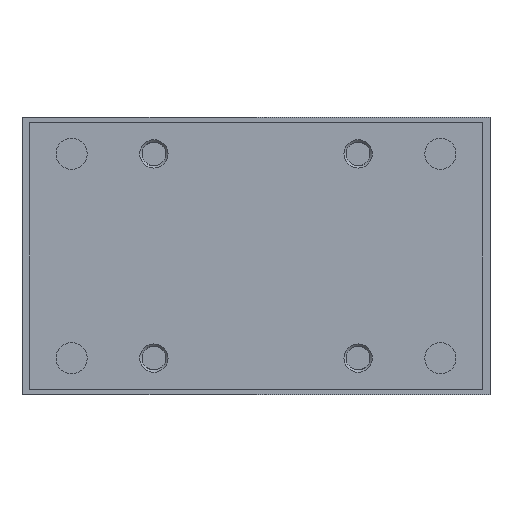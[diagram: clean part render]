
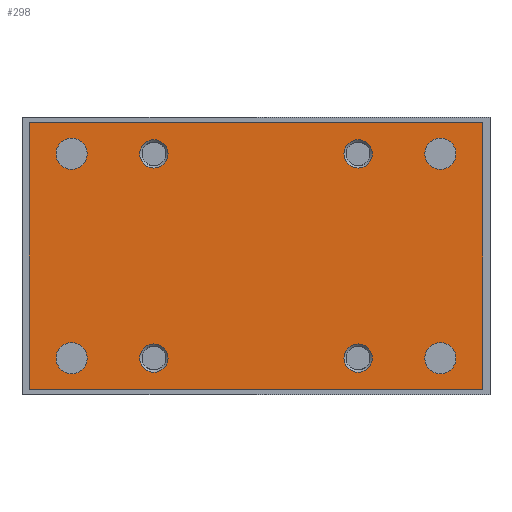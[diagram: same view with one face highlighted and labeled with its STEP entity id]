
A CAD part, left-side view. The second image highlights one B-rep face of the part: STEP entity #298.
In plain terms, the highlighted planar face has unit normal (-1, 0, 0).
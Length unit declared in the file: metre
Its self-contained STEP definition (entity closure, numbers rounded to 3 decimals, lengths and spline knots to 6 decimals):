
#298 = ADVANCED_FACE( '', ( #833, #834, #835, #836, #837, #838, #839, #840, #841 ), #842, .F. );
#833 = FACE_BOUND( '', #1791, .T. );
#834 = FACE_BOUND( '', #1792, .T. );
#835 = FACE_BOUND( '', #1793, .T. );
#836 = FACE_BOUND( '', #1794, .T. );
#837 = FACE_BOUND( '', #1795, .T. );
#838 = FACE_BOUND( '', #1796, .T. );
#839 = FACE_BOUND( '', #1797, .T. );
#840 = FACE_BOUND( '', #1798, .T. );
#841 = FACE_OUTER_BOUND( '', #1799, .T. );
#842 = PLANE( '', #1800 );
#1791 = EDGE_LOOP( '', ( #2769 ) );
#1792 = EDGE_LOOP( '', ( #2770 ) );
#1793 = EDGE_LOOP( '', ( #2771 ) );
#1794 = EDGE_LOOP( '', ( #2772 ) );
#1795 = EDGE_LOOP( '', ( #2773 ) );
#1796 = EDGE_LOOP( '', ( #2774 ) );
#1797 = EDGE_LOOP( '', ( #2775 ) );
#1798 = EDGE_LOOP( '', ( #2776 ) );
#1799 = EDGE_LOOP( '', ( #2777, #2778, #2779, #2780 ) );
#1800 = AXIS2_PLACEMENT_3D( '', #2781, #2782, #2783 );
#2769 = ORIENTED_EDGE( '', *, *, #4523, .T. );
#2770 = ORIENTED_EDGE( '', *, *, #4524, .T. );
#2771 = ORIENTED_EDGE( '', *, *, #4525, .T. );
#2772 = ORIENTED_EDGE( '', *, *, #4526, .T. );
#2773 = ORIENTED_EDGE( '', *, *, #4527, .T. );
#2774 = ORIENTED_EDGE( '', *, *, #4528, .F. );
#2775 = ORIENTED_EDGE( '', *, *, #4503, .F. );
#2776 = ORIENTED_EDGE( '', *, *, #4529, .T. );
#2777 = ORIENTED_EDGE( '', *, *, #4530, .T. );
#2778 = ORIENTED_EDGE( '', *, *, #4531, .T. );
#2779 = ORIENTED_EDGE( '', *, *, #4493, .T. );
#2780 = ORIENTED_EDGE( '', *, *, #4532, .T. );
#2781 = CARTESIAN_POINT( '', ( -0.107, -0.08, -0.096 ) );
#2782 = DIRECTION( '', ( 1., 0., 0. ) );
#2783 = DIRECTION( '', ( 0., 0., -1. ) );
#4493 = EDGE_CURVE( '', #5156, #5154, #5157, .T. );
#4503 = EDGE_CURVE( '', #5173, #5173, #5174, .T. );
#4523 = EDGE_CURVE( '', #5207, #5207, #5208, .T. );
#4524 = EDGE_CURVE( '', #5209, #5209, #5210, .T. );
#4525 = EDGE_CURVE( '', #5211, #5211, #5212, .T. );
#4526 = EDGE_CURVE( '', #5213, #5213, #5214, .T. );
#4527 = EDGE_CURVE( '', #5215, #5215, #5216, .T. );
#4528 = EDGE_CURVE( '', #5217, #5217, #5218, .T. );
#4529 = EDGE_CURVE( '', #5219, #5219, #5220, .T. );
#4530 = EDGE_CURVE( '', #5221, #5222, #5223, .T. );
#4531 = EDGE_CURVE( '', #5222, #5156, #5224, .T. );
#4532 = EDGE_CURVE( '', #5154, #5221, #5225, .T. );
#5154 = VERTEX_POINT( '', #6114 );
#5156 = VERTEX_POINT( '', #6117 );
#5157 = LINE( '', #6118, #6119 );
#5173 = VERTEX_POINT( '', #6136 );
#5174 = CIRCLE( '', #6137, 0.005 );
#5207 = VERTEX_POINT( '', #6174 );
#5208 = CIRCLE( '', #6175, 0.0055 );
#5209 = VERTEX_POINT( '', #6176 );
#5210 = CIRCLE( '', #6177, 0.0055 );
#5211 = VERTEX_POINT( '', #6178 );
#5212 = CIRCLE( '', #6179, 0.0055 );
#5213 = VERTEX_POINT( '', #6180 );
#5214 = CIRCLE( '', #6181, 0.0055 );
#5215 = VERTEX_POINT( '', #6182 );
#5216 = CIRCLE( '', #6183, 0.005 );
#5217 = VERTEX_POINT( '', #6184 );
#5218 = CIRCLE( '', #6185, 0.005 );
#5219 = VERTEX_POINT( '', #6186 );
#5220 = CIRCLE( '', #6187, 0.005 );
#5221 = VERTEX_POINT( '', #6188 );
#5222 = VERTEX_POINT( '', #6189 );
#5223 = LINE( '', #6190, #6191 );
#5224 = LINE( '', #6192, #6193 );
#5225 = LINE( '', #6194, #6195 );
#6114 = CARTESIAN_POINT( '', ( -0.107, 0.08, -0.096 ) );
#6117 = CARTESIAN_POINT( '', ( -0.107, 0.08, -0.002 ) );
#6118 = CARTESIAN_POINT( '', ( -0.107, 0.08, -0.002 ) );
#6119 = VECTOR( '', #7510, 1. );
#6136 = CARTESIAN_POINT( '', ( -0.107, -0.036, -0.008 ) );
#6137 = AXIS2_PLACEMENT_3D( '', #7530, #7531, #7532 );
#6174 = CARTESIAN_POINT( '', ( -0.107, -0.0595, -0.085 ) );
#6175 = AXIS2_PLACEMENT_3D( '', #7567, #7568, #7569 );
#6176 = CARTESIAN_POINT( '', ( -0.107, 0.0705, -0.085 ) );
#6177 = AXIS2_PLACEMENT_3D( '', #7570, #7571, #7572 );
#6178 = CARTESIAN_POINT( '', ( -0.107, -0.0595, -0.013 ) );
#6179 = AXIS2_PLACEMENT_3D( '', #7573, #7574, #7575 );
#6180 = CARTESIAN_POINT( '', ( -0.107, 0.0705, -0.013 ) );
#6181 = AXIS2_PLACEMENT_3D( '', #7576, #7577, #7578 );
#6182 = CARTESIAN_POINT( '', ( -0.107, -0.036, -0.09 ) );
#6183 = AXIS2_PLACEMENT_3D( '', #7579, #7580, #7581 );
#6184 = CARTESIAN_POINT( '', ( -0.107, 0.036, -0.09 ) );
#6185 = AXIS2_PLACEMENT_3D( '', #7582, #7583, #7584 );
#6186 = CARTESIAN_POINT( '', ( -0.107, 0.036, -0.008 ) );
#6187 = AXIS2_PLACEMENT_3D( '', #7585, #7586, #7587 );
#6188 = CARTESIAN_POINT( '', ( -0.107, -0.08, -0.096 ) );
#6189 = CARTESIAN_POINT( '', ( -0.107, -0.08, -0.002 ) );
#6190 = CARTESIAN_POINT( '', ( -0.107, -0.08, -0.096 ) );
#6191 = VECTOR( '', #7588, 1. );
#6192 = CARTESIAN_POINT( '', ( -0.107, -0.08, -0.002 ) );
#6193 = VECTOR( '', #7589, 1. );
#6194 = CARTESIAN_POINT( '', ( -0.107, 0.08, -0.096 ) );
#6195 = VECTOR( '', #7590, 1. );
#7510 = DIRECTION( '', ( 0., 0., -1. ) );
#7530 = CARTESIAN_POINT( '', ( -0.107, -0.036, -0.013 ) );
#7531 = DIRECTION( '', ( -1., 0., 0. ) );
#7532 = DIRECTION( '', ( 0., 0., 1. ) );
#7567 = CARTESIAN_POINT( '', ( -0.107, -0.065, -0.085 ) );
#7568 = DIRECTION( '', ( 1., 0., 0. ) );
#7569 = DIRECTION( '', ( 0., 1., 0. ) );
#7570 = CARTESIAN_POINT( '', ( -0.107, 0.065, -0.085 ) );
#7571 = DIRECTION( '', ( 1., 0., 0. ) );
#7572 = DIRECTION( '', ( 0., 1., 0. ) );
#7573 = CARTESIAN_POINT( '', ( -0.107, -0.065, -0.013 ) );
#7574 = DIRECTION( '', ( 1., 0., 0. ) );
#7575 = DIRECTION( '', ( 0., 1., 0. ) );
#7576 = CARTESIAN_POINT( '', ( -0.107, 0.065, -0.013 ) );
#7577 = DIRECTION( '', ( 1., 0., 0. ) );
#7578 = DIRECTION( '', ( 0., 1., 0. ) );
#7579 = CARTESIAN_POINT( '', ( -0.107, -0.036, -0.085 ) );
#7580 = DIRECTION( '', ( 1., 0., 0. ) );
#7581 = DIRECTION( '', ( 0., 0., -1. ) );
#7582 = CARTESIAN_POINT( '', ( -0.107, 0.036, -0.085 ) );
#7583 = DIRECTION( '', ( -1., 0., 0. ) );
#7584 = DIRECTION( '', ( 0., 0., -1. ) );
#7585 = CARTESIAN_POINT( '', ( -0.107, 0.036, -0.013 ) );
#7586 = DIRECTION( '', ( 1., 0., 0. ) );
#7587 = DIRECTION( '', ( 0., 0., 1. ) );
#7588 = DIRECTION( '', ( 0., 0., 1. ) );
#7589 = DIRECTION( '', ( 0., 1., 0. ) );
#7590 = DIRECTION( '', ( 0., -1., 0. ) );
